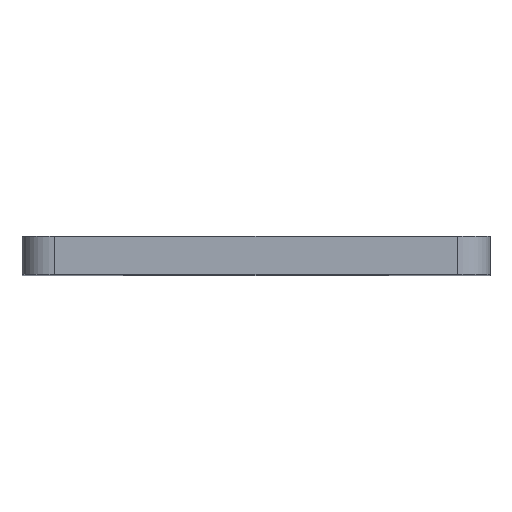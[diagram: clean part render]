
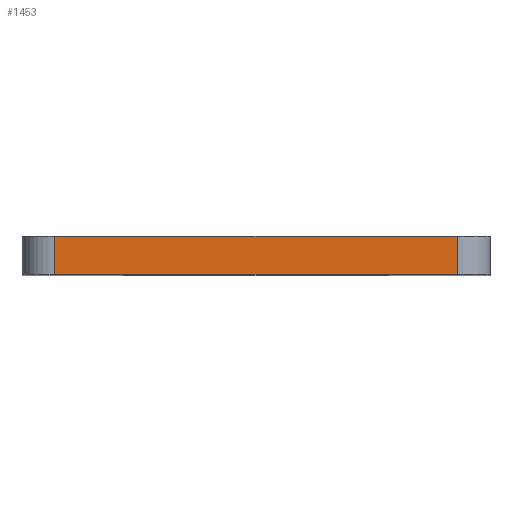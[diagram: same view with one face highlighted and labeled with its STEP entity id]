
A CAD part, top view. The second image highlights one B-rep face of the part: STEP entity #1453.
In plain terms, the highlighted planar face has unit normal (0, 0, 1).
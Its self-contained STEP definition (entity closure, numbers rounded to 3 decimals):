
#44 = PLANE('',#45);
#45 = AXIS2_PLACEMENT_3D('',#46,#47,#48);
#46 = CARTESIAN_POINT('',(-18.,-8.,-36.));
#47 = DIRECTION('',(0.,1.,0.));
#48 = DIRECTION('',(0.,0.,1.));
#100 = PLANE('',#101);
#101 = AXIS2_PLACEMENT_3D('',#102,#103,#104);
#102 = CARTESIAN_POINT('',(-18.,-4.5,-36.));
#103 = DIRECTION('',(0.,1.,0.));
#104 = DIRECTION('',(0.,0.,1.));
#126 = CYLINDRICAL_SURFACE('',#127,3.);
#127 = AXIS2_PLACEMENT_3D('',#128,#129,#130);
#128 = CARTESIAN_POINT('',(-15.,-8.,33.));
#129 = DIRECTION('',(0.,1.,0.));
#130 = DIRECTION('',(-1.,0.,0.));
#199 = VERTEX_POINT('',#200);
#200 = CARTESIAN_POINT('',(-15.,-8.,36.));
#222 = EDGE_CURVE('',#199,#223,#225,.T.);
#223 = VERTEX_POINT('',#224);
#224 = CARTESIAN_POINT('',(22.,-8.,36.));
#225 = SURFACE_CURVE('',#226,(#230,#237),.PCURVE_S1.);
#226 = LINE('',#227,#228);
#227 = CARTESIAN_POINT('',(-18.,-8.,36.));
#228 = VECTOR('',#229,1.);
#229 = DIRECTION('',(1.,0.,0.));
#230 = PCURVE('',#44,#231);
#231 = DEFINITIONAL_REPRESENTATION('',(#232),#236);
#232 = LINE('',#233,#234);
#233 = CARTESIAN_POINT('',(72.,0.));
#234 = VECTOR('',#235,1.);
#235 = DIRECTION('',(0.,1.));
#236 = ( GEOMETRIC_REPRESENTATION_CONTEXT(2) 
PARAMETRIC_REPRESENTATION_CONTEXT() REPRESENTATION_CONTEXT('2D SPACE',''
  ) );
#237 = PCURVE('',#238,#243);
#238 = PLANE('',#239);
#239 = AXIS2_PLACEMENT_3D('',#240,#241,#242);
#240 = CARTESIAN_POINT('',(-18.,-8.,36.));
#241 = DIRECTION('',(0.,0.,1.));
#242 = DIRECTION('',(1.,0.,0.));
#243 = DEFINITIONAL_REPRESENTATION('',(#244),#248);
#244 = LINE('',#245,#246);
#245 = CARTESIAN_POINT('',(0.,0.));
#246 = VECTOR('',#247,1.);
#247 = DIRECTION('',(1.,0.));
#248 = ( GEOMETRIC_REPRESENTATION_CONTEXT(2) 
PARAMETRIC_REPRESENTATION_CONTEXT() REPRESENTATION_CONTEXT('2D SPACE',''
  ) );
#271 = CYLINDRICAL_SURFACE('',#272,3.);
#272 = AXIS2_PLACEMENT_3D('',#273,#274,#275);
#273 = CARTESIAN_POINT('',(22.,-8.,33.));
#274 = DIRECTION('',(0.,1.,0.));
#275 = DIRECTION('',(1.,0.,-0.));
#626 = EDGE_CURVE('',#199,#627,#629,.T.);
#627 = VERTEX_POINT('',#628);
#628 = CARTESIAN_POINT('',(-15.,-4.5,36.));
#629 = SURFACE_CURVE('',#630,(#634,#641),.PCURVE_S1.);
#630 = LINE('',#631,#632);
#631 = CARTESIAN_POINT('',(-15.,-8.,36.));
#632 = VECTOR('',#633,1.);
#633 = DIRECTION('',(0.,1.,0.));
#634 = PCURVE('',#126,#635);
#635 = DEFINITIONAL_REPRESENTATION('',(#636),#640);
#636 = LINE('',#637,#638);
#637 = CARTESIAN_POINT('',(1.571,0.));
#638 = VECTOR('',#639,1.);
#639 = DIRECTION('',(0.,1.));
#640 = ( GEOMETRIC_REPRESENTATION_CONTEXT(2) 
PARAMETRIC_REPRESENTATION_CONTEXT() REPRESENTATION_CONTEXT('2D SPACE',''
  ) );
#641 = PCURVE('',#238,#642);
#642 = DEFINITIONAL_REPRESENTATION('',(#643),#647);
#643 = LINE('',#644,#645);
#644 = CARTESIAN_POINT('',(3.,0.));
#645 = VECTOR('',#646,1.);
#646 = DIRECTION('',(0.,1.));
#647 = ( GEOMETRIC_REPRESENTATION_CONTEXT(2) 
PARAMETRIC_REPRESENTATION_CONTEXT() REPRESENTATION_CONTEXT('2D SPACE',''
  ) );
#701 = EDGE_CURVE('',#627,#702,#704,.T.);
#702 = VERTEX_POINT('',#703);
#703 = CARTESIAN_POINT('',(22.,-4.5,36.));
#704 = SURFACE_CURVE('',#705,(#709,#716),.PCURVE_S1.);
#705 = LINE('',#706,#707);
#706 = CARTESIAN_POINT('',(-18.,-4.5,36.));
#707 = VECTOR('',#708,1.);
#708 = DIRECTION('',(1.,0.,0.));
#709 = PCURVE('',#100,#710);
#710 = DEFINITIONAL_REPRESENTATION('',(#711),#715);
#711 = LINE('',#712,#713);
#712 = CARTESIAN_POINT('',(72.,0.));
#713 = VECTOR('',#714,1.);
#714 = DIRECTION('',(0.,1.));
#715 = ( GEOMETRIC_REPRESENTATION_CONTEXT(2) 
PARAMETRIC_REPRESENTATION_CONTEXT() REPRESENTATION_CONTEXT('2D SPACE',''
  ) );
#716 = PCURVE('',#238,#717);
#717 = DEFINITIONAL_REPRESENTATION('',(#718),#722);
#718 = LINE('',#719,#720);
#719 = CARTESIAN_POINT('',(0.,3.5));
#720 = VECTOR('',#721,1.);
#721 = DIRECTION('',(1.,0.));
#722 = ( GEOMETRIC_REPRESENTATION_CONTEXT(2) 
PARAMETRIC_REPRESENTATION_CONTEXT() REPRESENTATION_CONTEXT('2D SPACE',''
  ) );
#1431 = EDGE_CURVE('',#223,#702,#1432,.T.);
#1432 = SURFACE_CURVE('',#1433,(#1437,#1444),.PCURVE_S1.);
#1433 = LINE('',#1434,#1435);
#1434 = CARTESIAN_POINT('',(22.,-8.,36.));
#1435 = VECTOR('',#1436,1.);
#1436 = DIRECTION('',(0.,1.,0.));
#1437 = PCURVE('',#271,#1438);
#1438 = DEFINITIONAL_REPRESENTATION('',(#1439),#1443);
#1439 = LINE('',#1440,#1441);
#1440 = CARTESIAN_POINT('',(-1.571,0.));
#1441 = VECTOR('',#1442,1.);
#1442 = DIRECTION('',(-0.,1.));
#1443 = ( GEOMETRIC_REPRESENTATION_CONTEXT(2) 
PARAMETRIC_REPRESENTATION_CONTEXT() REPRESENTATION_CONTEXT('2D SPACE',''
  ) );
#1444 = PCURVE('',#238,#1445);
#1445 = DEFINITIONAL_REPRESENTATION('',(#1446),#1450);
#1446 = LINE('',#1447,#1448);
#1447 = CARTESIAN_POINT('',(40.,0.));
#1448 = VECTOR('',#1449,1.);
#1449 = DIRECTION('',(0.,1.));
#1450 = ( GEOMETRIC_REPRESENTATION_CONTEXT(2) 
PARAMETRIC_REPRESENTATION_CONTEXT() REPRESENTATION_CONTEXT('2D SPACE',''
  ) );
#1453 = ADVANCED_FACE('',(#1454),#238,.T.);
#1454 = FACE_BOUND('',#1455,.T.);
#1455 = EDGE_LOOP('',(#1456,#1457,#1458,#1459));
#1456 = ORIENTED_EDGE('',*,*,#701,.F.);
#1457 = ORIENTED_EDGE('',*,*,#626,.F.);
#1458 = ORIENTED_EDGE('',*,*,#222,.T.);
#1459 = ORIENTED_EDGE('',*,*,#1431,.T.);
